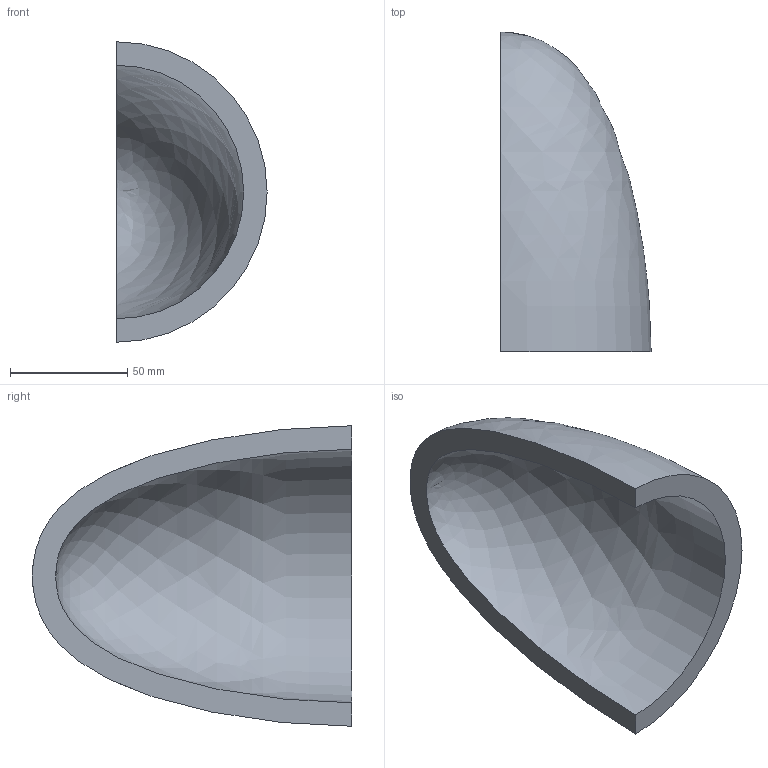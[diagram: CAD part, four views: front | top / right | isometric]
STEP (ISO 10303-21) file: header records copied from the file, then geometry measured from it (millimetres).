
FILE_DESCRIPTION(('CATIA V5 STEP Exchange'),'2;1');
FILE_NAME('C:\_Andres\UNIVERSIDAD\IQS\ASIGNATURAS\DAO\EXF\EXF-16172c\2inicio\Villarroya_Marquina_Ej10_v36.stp','2017-03-05T22:31:17+00:00',('none'),('none'),'CATIA Version 5-6 Release 2014 SP1 HF18','CATIA V5 STEP AP203','none');
FILE_SCHEMA(('CONFIG_CONTROL_DESIGN'));
Length unit declared in the file: millimetre
Products named in the file (1): Villarroya_Marquina_Ej10_v36
Bounding box: 64 x 136 x 128 mm (x, y, z)
Volume: 209402.6 mm3; surface area: 46964.4 mm2
Topology: 1 solids, 1 shells, 4 faces, 10 edges, 6 vertices
Faces by surface type: revolution 2, plane 2
Entity records: 254 total; most frequent: CARTESIAN_POINT 132, ORIENTED_EDGE 16, DIRECTION 10, EDGE_CURVE 8, B_SPLINE_CURVE_WITH_KNOTS 6, VERTEX_POINT 6, AXIS2_PLACEMENT_3D 5, ADVANCED_FACE 4
